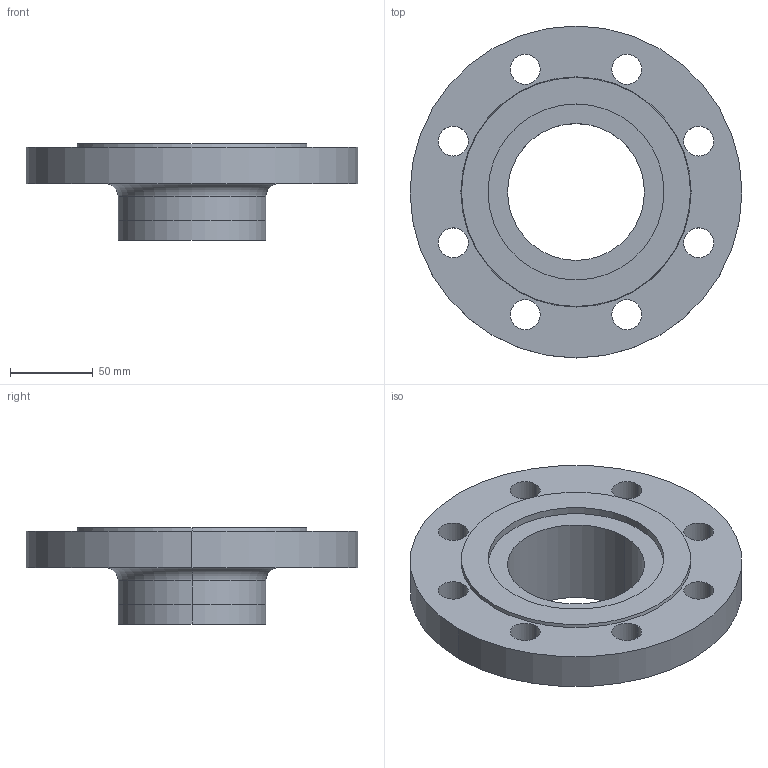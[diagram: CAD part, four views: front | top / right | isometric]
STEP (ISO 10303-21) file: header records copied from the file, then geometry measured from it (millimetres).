
FILE_DESCRIPTION (( 'STEP AP214' ), '1' );
FILE_NAME ('PN40 DN80 Type 11 - Type G Face.STEP', '2019-01-01T19:41:46', ( '' ), ( '' ), 'SwSTEP 2.0', 'SolidWorks 2019', '' );
FILE_SCHEMA (( 'AUTOMOTIVE_DESIGN' ));
Length unit declared in the file: millimetre
Products named in the file (1): PN40 DN80 Type 11 - Type G Face
Bounding box: 200 x 200 x 58 mm (x, y, z)
Volume: 565977.1 mm3; surface area: 96493.8 mm2
Topology: 1 solids, 1 shells, 37 faces, 90 edges, 58 vertices
Faces by surface type: cylinder 24, plane 5, torus 4, cone 4
Entity records: 1188 total; most frequent: DIRECTION 228, CARTESIAN_POINT 186, ORIENTED_EDGE 180, AXIS2_PLACEMENT_3D 100, EDGE_CURVE 90, CIRCLE 62, EDGE_LOOP 58, VERTEX_POINT 58
